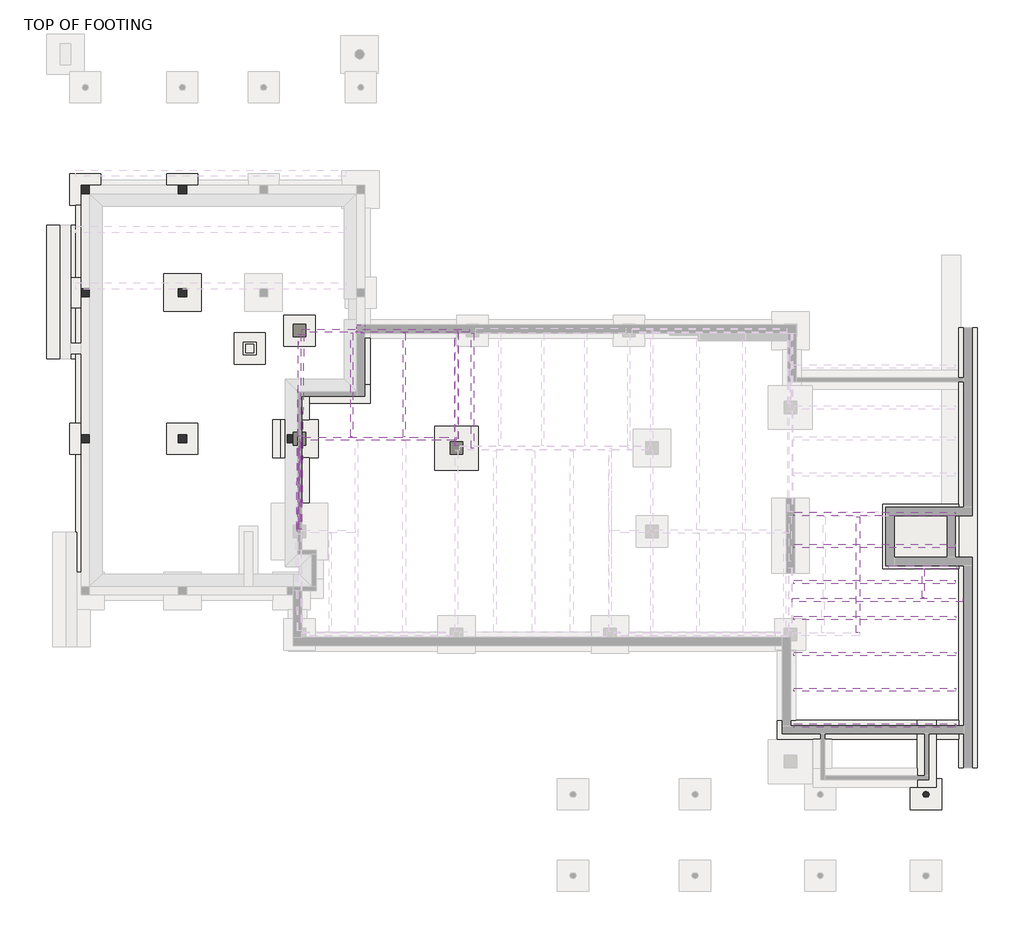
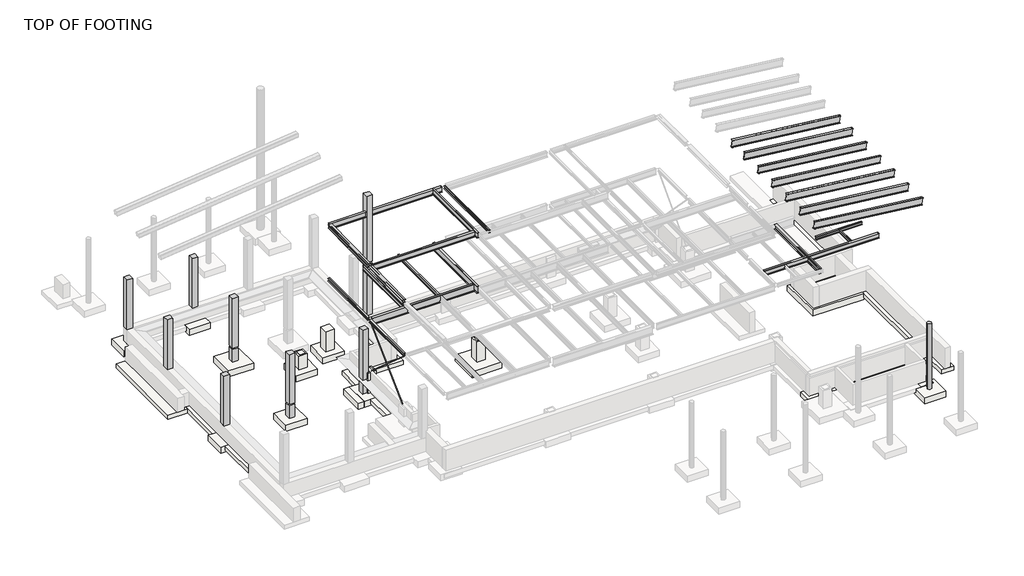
# One storey, part 3 of 4: 23 beams, 13 slabs, 9 columns, 8 footings, 2 members.
"""IFC4 building model written with IfcOpenShell, lengths in millimetres."""

from ifc_helpers import new_model, si_unit, point, frame, frame_2d, origin, place, context, project, spatial, polyline, circle_curve, trimmed, segment, composite_curve, outline, extrude, faceted_brep, transform, mapped, element, save
from components import w_wide_flange_w10x12_2b4455fd, w_wide_flange_w10x49_85831f45, w_wide_flange_w10x49_791f69d4, w_wide_flange_w12x14_94fda763, w_wide_flange_w14x30_e86b3798, w_wide_flange_w14x30_a3fd6266, w_wide_flange_w16x26_a9c838cc, w_wide_flange_w16x26_811e96eb, w_wide_flange_w16x26_3658d20b, w_wide_flange_w21x44_175405ae, w_wide_flange_w21x44_417b1038, w_wide_flange_w21x44_42aa095b, w_wide_flange_w21x44_dd8e647a, w_wide_flange_w21x44_bf9ef094, w_wide_flange_w21x44_aedf4de2, w_wide_flange_w21x44_8a3b57d7, w_wide_flange_w21x44_bc81a974, w_wide_flange_w21x44_aeefe74e, w_wide_flange_w8x10_6a41b71d, w_wide_flange_w8x10_f6404ef0, w_wide_flange_w8x18_62c2d6be, w_wide_flange_w8x18_57e2a91b, slab_df1ede25, slab_6d6a3403, footing_rectangular_with_pier_073162b1, footing_rectangular_with_pier_64681127, footing_rectangular_with_pier_b4053baf

model = new_model("IFC4")

# Units and contexts
model_context = context("Model", 3, world=origin())
ifc_project = project(units=[si_unit("LENGTHUNIT", "METRE", prefix="MILLI")], contexts=[model_context])

# Site, building, storey
site = spatial("IfcSite", under=ifc_project)
building = spatial("IfcBuilding", under=site)
storey = spatial("IfcBuildingStorey", under=building, Name="TOP OF FOOTING", Elevation=28905.2)

# Beams
placement = place(None, origin())
w_wide_flange_w10x12_shape = w_wide_flange_w10x12_2b4455fd(model_context)
element("IfcBeam", 1, ObjectType="W-Wide Flange : W10X12", at=placement, inside=storey, context=model_context, shape_type="MappedRepresentation", body=[
    mapped(w_wide_flange_w10x12_shape, transform((-5235.678794, 5212.7570005, 34253.551), x_axis=(0.0, -1.0, 0.0), y_axis=(1.0, 0.0, 0.0), z_axis=(0.0, 0.0, 1.0))),
])
w_wide_flange_w10x49_shape = w_wide_flange_w10x49_85831f45(model_context)
element("IfcBeam", 2, ObjectType="W-Wide Flange : W10X49", at=placement, inside=storey, context=model_context, shape_type="MappedRepresentation", body=[
    mapped(w_wide_flange_w10x49_shape, transform((-10329.1914876, 323.1484491, 38341.3), x_axis=(0.010666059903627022, 0.9999431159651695, 0.0), y_axis=(-0.9999431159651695, 0.010666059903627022, 0.0), z_axis=(0.0, 0.0, 1.0))),
])
w_wide_flange_w10x49_2_shape = w_wide_flange_w10x49_791f69d4(model_context)
element("IfcBeam", 3, ObjectType="W-Wide Flange : W10X49", at=placement, inside=storey, context=model_context, shape_type="MappedRepresentation", body=[
    mapped(w_wide_flange_w10x49_2_shape, transform((-10277.0536, 5211.0754143, 38341.3), x_axis=(0.010666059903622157, 0.9999431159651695, 0.0), y_axis=(-0.9999431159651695, 0.010666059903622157, 0.0), z_axis=(0.0, 0.0, 1.0))),
])
w_wide_flange_w12x14_shape = w_wide_flange_w12x14_94fda763(model_context)
element("IfcBeam", 4, ObjectType="W-Wide Flange : W12X14", at=placement, inside=storey, context=model_context, shape_type="MappedRepresentation", body=[
    mapped(w_wide_flange_w12x14_shape, transform((-7781.4996274, 5212.7570005, 34227.77), x_axis=(0.0, -1.0, 0.0), y_axis=(1.0, 0.0, 0.0), z_axis=(0.0, 0.0, 1.0))),
])
w_wide_flange_w14x30_shape = w_wide_flange_w14x30_e86b3798(model_context)
element("IfcBeam", 5, ObjectType="W-Wide Flange : W14X30", at=placement, inside=storey, context=model_context, shape_type="MappedRepresentation", body=[
    mapped(w_wide_flange_w14x30_shape, transform((16860.2045393, -4013.7929995, 34203.1339844), x_axis=(0.0, -1.0, 0.0), y_axis=(1.0, 0.0, 0.0), z_axis=(0.0, 0.0, 1.0))),
])
w_wide_flange_w14x30_2_shape = w_wide_flange_w14x30_a3fd6266(model_context)
element("IfcBeam", 6, ObjectType="W-Wide Flange : W14X30", at=placement, inside=storey, context=model_context, shape_type="MappedRepresentation", body=[
    mapped(w_wide_flange_w14x30_2_shape, transform((17765.6930355, -5266.3304995, 34203.1339844), x_axis=(1.0, 0.0, 0.0), y_axis=(0.0, 1.0, 0.0), z_axis=(0.0, 0.0, 1.0))),
])
w_wide_flange_w16x26_shape = w_wide_flange_w16x26_a9c838cc(model_context)
element("IfcBeam", 7, ObjectType="W-Wide Flange : W16X26", at=placement, inside=storey, context=model_context, shape_type="MappedRepresentation", body=[
    mapped(w_wide_flange_w16x26_shape, transform((-6508.5892107, 2582.2695005, 38205.41), x_axis=(1.0, 0.0, 0.0), y_axis=(0.0, 1.0, 0.0), z_axis=(0.0, 0.0, 1.0))),
])
w_wide_flange_w16x26_2_shape = w_wide_flange_w16x26_811e96eb(model_context)
element("IfcBeam", 8, ObjectType="W-Wide Flange : W16X26", at=placement, inside=storey, context=model_context, shape_type="MappedRepresentation", body=[
    mapped(w_wide_flange_w16x26_2_shape, transform((-2689.8579607, 4984.1570005, 38268.91), x_axis=(0.0, 1.0, 0.0), y_axis=(-1.0, 0.0, 0.0), z_axis=(0.0, 0.0, 1.0))),
])
w_wide_flange_w16x26_3_shape = w_wide_flange_w16x26_3658d20b(model_context)
element("IfcBeam", 9, ObjectType="W-Wide Flange : W16X26", at=placement, inside=storey, context=model_context, shape_type="MappedRepresentation", body=[
    mapped(w_wide_flange_w16x26_3_shape, transform((-6107.7454607, 7843.2445005, 38205.41), x_axis=(1.0, 0.0, 0.0), y_axis=(0.0, 1.0, 0.0), z_axis=(0.0, 0.0, 1.0))),
])
w_wide_flange_w21x44_shape = w_wide_flange_w21x44_175405ae(model_context)
element("IfcBeam", 10, ObjectType="W-Wide Flange : W21X44", at=placement, inside=storey, context=model_context, shape_type="MappedRepresentation", body=[
    mapped(w_wide_flange_w21x44_shape, transform((-2689.8579607, 4984.1570005, 34116.01), x_axis=(0.0, -1.0, 0.0), y_axis=(1.0, 0.0, 0.0), z_axis=(0.0, 0.0, 1.0))),
])
w_wide_flange_w21x44_2_shape = w_wide_flange_w21x44_417b1038(model_context)
element("IfcBeam", 11, ObjectType="W-Wide Flange : W21X44", at=placement, inside=storey, context=model_context, shape_type="MappedRepresentation", body=[
    mapped(w_wide_flange_w21x44_2_shape, transform((-6508.5892107, 2582.2695005, 34116.01), x_axis=(1.0, 0.0, 0.0), y_axis=(0.0, 1.0, 0.0), z_axis=(0.0, 0.0, 1.0))),
])
w_wide_flange_w21x44_3_shape = w_wide_flange_w21x44_42aa095b(model_context)
element("IfcBeam", 12, ObjectType="W-Wide Flange : W21X44", at=placement, inside=storey, context=model_context, shape_type="MappedRepresentation", body=[
    mapped(w_wide_flange_w21x44_3_shape, transform((17638.6179777, -2648.5678042, 41130.9707091), x_axis=(0.993803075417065, 0.0, -0.1111550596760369), y_axis=(0.0, 1.0000000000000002, 0.0), z_axis=(0.1111550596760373, 0.0, 0.9938030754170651))),
])
w_wide_flange_w21x44_4_shape = w_wide_flange_w21x44_dd8e647a(model_context)
element("IfcBeam", 13, ObjectType="W-Wide Flange : W21X44", at=placement, inside=storey, context=model_context, shape_type="MappedRepresentation", body=[
    mapped(w_wide_flange_w21x44_4_shape, transform((17638.6280266, -1084.8554995, 41130.9695852), x_axis=(0.993803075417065, 0.0, -0.1111550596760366), y_axis=(0.0, 1.0, 0.0), z_axis=(0.11115505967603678, 0.0, 0.9938030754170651))),
])
w_wide_flange_w21x44_5_shape = w_wide_flange_w21x44_bf9ef094(model_context)
element("IfcBeam", 14, ObjectType="W-Wide Flange : W21X44", at=placement, inside=storey, context=model_context, shape_type="MappedRepresentation", body=[
    mapped(w_wide_flange_w21x44_5_shape, transform((17644.6506444, -11391.7447247, 41130.2959664), x_axis=(0.9938030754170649, 0.0, -0.11115505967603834), y_axis=(0.0, 1.0000000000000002, 0.0), z_axis=(0.11115505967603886, 0.0, 0.9938030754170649))),
])
w_wide_flange_w21x44_6_shape = w_wide_flange_w21x44_aedf4de2(model_context)
element("IfcBeam", 15, ObjectType="W-Wide Flange : W21X44", at=placement, inside=storey, context=model_context, shape_type="MappedRepresentation", body=[
    mapped(w_wide_flange_w21x44_6_shape, transform((17643.3647414, -9643.1093406, 41130.4397923), x_axis=(0.9938030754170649, 0.0, -0.11115505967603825), y_axis=(0.0, 1.0, 0.0), z_axis=(0.11115505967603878, 0.0, 0.9938030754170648))),
])
w_wide_flange_w21x44_7_shape = w_wide_flange_w21x44_8a3b57d7(model_context)
element("IfcBeam", 16, ObjectType="W-Wide Flange : W21X44", at=placement, inside=storey, context=model_context, shape_type="MappedRepresentation", body=[
    mapped(w_wide_flange_w21x44_7_shape, transform((17642.0788384, -7894.4739565, 41130.5836182), x_axis=(0.9938030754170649, 0.0, -0.11115505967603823), y_axis=(0.0, 1.0, 0.0), z_axis=(0.11115505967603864, 0.0, 0.9938030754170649))),
])
w_wide_flange_w21x44_8_shape = w_wide_flange_w21x44_bc81a974(model_context)
element("IfcBeam", 17, ObjectType="W-Wide Flange : W21X44", at=placement, inside=storey, context=model_context, shape_type="MappedRepresentation", body=[
    mapped(w_wide_flange_w21x44_8_shape, transform((17640.7929353, -6145.8385724, 41130.7274441), x_axis=(0.9938030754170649, 0.0, -0.1111550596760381), y_axis=(0.0, 1.0, 0.0), z_axis=(0.1111550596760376, 0.0, 0.993803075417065))),
])
w_wide_flange_w21x44_9_shape = w_wide_flange_w21x44_aeefe74e(model_context)
element("IfcBeam", 18, ObjectType="W-Wide Flange : W21X44", at=placement, inside=storey, context=model_context, shape_type="MappedRepresentation", body=[
    mapped(w_wide_flange_w21x44_9_shape, transform((17639.5070323, -4397.2031883, 41130.87127), x_axis=(0.993803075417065, 0.0, -0.11115505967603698), y_axis=(0.0, 1.0, 0.0), z_axis=(0.11115505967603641, 0.0, 0.993803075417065))),
])
w_wide_flange_w8x10_shape = w_wide_flange_w8x10_6a41b71d(model_context)
element("IfcBeam", 19, ObjectType="W-Wide Flange : W8X10", at=placement, inside=storey, context=model_context, shape_type="MappedRepresentation", body=[
    mapped(w_wide_flange_w8x10_shape, transform((-1910.3954607, 4984.1570005, 38368.097), x_axis=(0.0, -1.0, 0.0), y_axis=(1.0, 0.0, 0.0), z_axis=(0.0, 0.0, 1.0))),
])
w_wide_flange_w8x10_2_shape = w_wide_flange_w8x10_f6404ef0(model_context)
element("IfcBeam", 20, ObjectType="W-Wide Flange : W8X10", at=placement, inside=storey, context=model_context, shape_type="MappedRepresentation", body=[
    mapped(w_wide_flange_w8x10_2_shape, transform((20035.2045393, -4470.9929995, 34278.697), x_axis=(0.0, 1.0, 0.0), y_axis=(-1.0, 0.0, 0.0), z_axis=(0.0, 0.0, 1.0))),
])
element("IfcBeam", 21, ObjectType="W-Wide Flange : W8X18", at=placement, inside=storey, context=model_context, shape_type="SweptSolid", body=[
    extrude(outline(composite_curve([segment(polyline([(34180.526, -10260.6454607), (34180.526, -10312.1439607)]), True, "CONTINUOUS"), segment(trimmed(circle_curve(frame_2d((34192.7815, -10312.1439607)), 12.2555), [point((34180.526, -10312.1439607))], [point((34192.7815, -10324.3994607))], True, "CARTESIAN"), True, "CONTINUOUS"), segment(polyline([(34192.7815, -10324.3994607), (34358.2625, -10324.3994607)]), True, "CONTINUOUS"), segment(trimmed(circle_curve(frame_2d((34358.2625, -10312.1439607)), 12.2555), [point((34358.2625, -10324.3994607))], [point((34370.518, -10312.1439607))], True, "CARTESIAN"), True, "CONTINUOUS"), segment(polyline([(34370.518, -10312.1439607), (34370.518, -10260.6454607), (34378.9, -10260.6454607), (34378.9, -10393.9954607), (34370.518, -10393.9954607), (34370.518, -10342.4969607)]), True, "CONTINUOUS"), segment(trimmed(circle_curve(frame_2d((34358.2625, -10342.4969607)), 12.2555), [point((34370.518, -10342.4969607))], [point((34358.2625, -10330.2414607))], True, "CARTESIAN"), True, "CONTINUOUS"), segment(polyline([(34358.2625, -10330.2414607), (34192.7815, -10330.2414607)]), True, "CONTINUOUS"), segment(trimmed(circle_curve(frame_2d((34192.7815, -10342.4969607)), 12.2555), [point((34192.7815, -10330.2414607))], [point((34180.526, -10342.4969607))], True, "CARTESIAN"), True, "CONTINUOUS"), segment(polyline([(34180.526, -10342.4969607), (34180.526, -10393.9954607), (34172.144, -10393.9954607), (34172.144, -10260.6454607), (34180.526, -10260.6454607)]), True, "CONTINUOUS")], self_intersect=False)), frame((0.0, -1820.3779639, 0.0), z_axis=(0.0, 1.0, 0.0), x_axis=(0.0, 0.0, 1.0)), (0.0, 0.0, 1.0), 4288.297855),
])
w_wide_flange_w8x18_shape = w_wide_flange_w8x18_62c2d6be(model_context)
element("IfcBeam", 22, ObjectType="W-Wide Flange : W8X18", at=placement, inside=storey, context=model_context, shape_type="MappedRepresentation", body=[
    mapped(w_wide_flange_w8x18_shape, transform((-10327.3204607, 5211.4620266, 34275.522), x_axis=(0.0, -1.0, 0.0), y_axis=(1.0, 0.0, 0.0), z_axis=(0.0, 0.0, 1.0))),
])
w_wide_flange_w8x18_2_shape = w_wide_flange_w8x18_57e2a91b(model_context)
element("IfcBeam", 23, ObjectType="W-Wide Flange : W8X18", at=placement, inside=storey, context=model_context, shape_type="MappedRepresentation", body=[
    mapped(w_wide_flange_w8x18_2_shape, transform((20017.7420393, -3675.6554995, 34275.522), x_axis=(1.0, 0.0, 0.0), y_axis=(0.0, 1.0, 0.0), z_axis=(0.0, 0.0, 1.0))),
])

# Columns
element("IfcColumn", 24, ObjectType="Concrete-Rectangular-Column : 16 x 16", at=placement, inside=storey, context=model_context, shape_type="Brep", body=[
    faceted_brep([(-20560.3454607, 14926.6695005, 33782.0), (-20560.3454607, 14520.2695005, 33782.0), (-20560.3454607, 14520.2695005, 29972.0), (-20560.3454607, 14926.6695005, 29972.0), (-20966.7454607, 14520.2695005, 33782.0), (-20966.7454607, 14520.2695005, 29972.0), (-20966.7454607, 14926.6695005, 33782.0), (-20966.7454607, 14926.6695005, 29972.0), (-20661.9454607, 14926.6695005, 33782.0)], [[[0, 1, 2, 3]], [[1, 4, 5, 2]], [[4, 6, 7, 5]], [[6, 8, 0, 3, 7]], [[1, 0, 8, 6, 4]], [[3, 2, 5, 7]]]),
])
element("IfcColumn", 25, ObjectType="Concrete-Rectangular-Column : 16 x 16", at=placement, inside=storey, context=model_context, shape_type="SweptSolid", body=[
    extrude(outline(polyline([(-15835.9454607, 14926.6695005), (-15835.9454607, 14520.2695005), (-16242.3454607, 14520.2695005), (-16242.3454607, 14926.6695005), (-15835.9454607, 14926.6695005)])), frame((0.0, 0.0, 29972.0), z_axis=(0.0, 0.0, 1.0), x_axis=(1.0, 0.0, 0.0)), (0.0, 0.0, 1.0), 3810.0),
])
element("IfcColumn", 26, ObjectType="Concrete-Rectangular-Column : 16 x 16", at=placement, inside=storey, context=model_context, shape_type="Brep", body=[
    faceted_brep([(-20560.3454607, 9897.4695005, 33782.0), (-20560.3454607, 9491.0695005, 33782.0), (-20560.3454607, 9491.0695005, 29972.0), (-20560.3454607, 9897.4695005, 29972.0), (-20661.9454607, 9491.0695005, 33782.0), (-20966.7454607, 9491.0695005, 33782.0), (-20966.7454607, 9491.0695005, 29972.0), (-20966.7454607, 9897.4695005, 33782.0), (-20966.7454607, 9897.4695005, 29972.0)], [[[0, 1, 2, 3]], [[1, 4, 5, 6, 2]], [[5, 7, 8, 6]], [[7, 0, 3, 8]], [[1, 0, 7, 5, 4]], [[3, 2, 6, 8]]]),
])
element("IfcColumn", 27, ObjectType="Concrete-Rectangular-Column : 16 x 16", at=placement, inside=storey, context=model_context, shape_type="Brep", body=[
    faceted_brep([(-15835.9454607, 9897.4695005, 28905.2), (-15835.9454607, 9491.0695005, 28905.2), (-16242.3454607, 9491.0695005, 28905.2), (-16242.3454607, 9897.4695005, 28905.2), (-15835.9454607, 9491.0695005, 29870.4), (-15835.9454607, 9897.4695005, 29870.4), (-16242.3454607, 9897.4695005, 29870.4), (-16242.3454607, 9491.0695005, 29870.4)], [[[0, 1, 2, 3]], [[4, 5, 6, 7]], [[1, 0, 5, 4]], [[2, 1, 4, 7]], [[3, 2, 7, 6]], [[0, 3, 6, 5]]]),
    faceted_brep([(-15835.9454607, 9897.4695005, 33782.0), (-15835.9454607, 9491.0695005, 33782.0), (-15835.9454607, 9491.0695005, 29972.0), (-15835.9454607, 9897.4695005, 29972.0), (-15886.7454607, 9491.0695005, 33782.0), (-16191.5454607, 9491.0695005, 33782.0), (-16242.3454607, 9491.0695005, 33782.0), (-16242.3454607, 9491.0695005, 29972.0), (-16242.3454607, 9897.4695005, 33782.0), (-16242.3454607, 9897.4695005, 29972.0)], [[[0, 1, 2, 3]], [[1, 4, 5, 6, 7, 2]], [[6, 8, 9, 7]], [[8, 0, 3, 9]], [[1, 0, 8, 6, 5, 4]], [[3, 2, 7, 9]]]),
])
element("IfcColumn", 28, ObjectType="Concrete-Rectangular-Column : 16 x 16", at=placement, inside=storey, context=model_context, shape_type="SweptSolid", body=[
    extrude(outline(polyline([(-20560.3454607, 2785.4695005), (-20560.3454607, 2379.0695005), (-20966.7454607, 2379.0695005), (-20966.7454607, 2785.4695005), (-20560.3454607, 2785.4695005)])), frame((0.0, 0.0, 29972.0), z_axis=(0.0, 0.0, 1.0), x_axis=(1.0, 0.0, 0.0)), (0.0, 0.0, 1.0), 3810.0),
])
element("IfcColumn", 29, ObjectType="Concrete-Rectangular-Column : 16 x 16", at=placement, inside=storey, context=model_context, shape_type="SweptSolid", body=[
    extrude(outline(polyline([(-10529.7763201, 2785.4695005), (-10529.7763201, 2379.0695005), (-10936.1763201, 2379.0695005), (-10936.1763201, 2785.4695005), (-10529.7763201, 2785.4695005)])), frame((0.0, 0.0, 28905.2), z_axis=(0.0, 0.0, 1.0), x_axis=(1.0, 0.0, 0.0)), (0.0, 0.0, 1.0), 965.2),
    extrude(outline(polyline([(-10529.7763201, 2785.4695005), (-10529.7763201, 2379.0695005), (-10936.1763201, 2379.0695005), (-10936.1763201, 2785.4695005), (-10529.7763201, 2785.4695005)])), frame((0.0, 0.0, 29972.0), z_axis=(0.0, 0.0, 1.0), x_axis=(1.0, 0.0, 0.0)), (0.0, 0.0, 1.0), 3810.0),
])
element("IfcColumn", 30, ObjectType="Concrete-Rectangular-Column : 16 x 16", at=placement, inside=storey, context=model_context, shape_type="SweptSolid", body=[
    extrude(outline(polyline([(-15835.9454607, 2785.4695005), (-15835.9454607, 2379.0695005), (-16242.3454607, 2379.0695005), (-16242.3454607, 2785.4695005), (-15835.9454607, 2785.4695005)])), frame((0.0, 0.0, 28905.2), z_axis=(0.0, 0.0, 1.0), x_axis=(1.0, 0.0, 0.0)), (0.0, 0.0, 1.0), 965.2),
    extrude(outline(polyline([(-15835.9454607, 2785.4695005), (-15835.9454607, 2379.0695005), (-16242.3454607, 2379.0695005), (-16242.3454607, 2785.4695005), (-15835.9454607, 2785.4695005)])), frame((0.0, 0.0, 29972.0), z_axis=(0.0, 0.0, 1.0), x_axis=(1.0, 0.0, 0.0)), (0.0, 0.0, 1.0), 3810.0),
])
element("IfcColumn", 31, ObjectType="Concrete-Rectangular-Column : 16 x 16", at=placement, inside=storey, context=model_context, shape_type="Brep", body=[
    faceted_brep([(-7149.1454607, 8132.1695005, 39622.9085937), (-7149.1454607, 7725.7695005, 39622.9085937), (-7149.1454607, 7725.7695005, 38595.3), (-7149.1454607, 7725.7695005, 38442.9), (-7149.1454607, 7725.7695005, 34544.0), (-7149.1454607, 7944.8445005, 34544.0), (-7149.1454607, 7944.8445005, 34378.9), (-7149.1454607, 7725.7695005, 34378.9), (-7149.1454607, 7725.7695005, 30480.0), (-7149.1454607, 8132.1695005, 30480.0), (-7149.1454607, 8132.1695005, 33782.0), (-7149.1454607, 8132.1695005, 34036.0), (-7149.1454607, 8132.1695005, 34239.2), (-7555.5454607, 7725.7695005, 39622.9085937), (-7555.5454607, 7725.7695005, 38595.3), (-7555.5454607, 7725.7695005, 38442.9), (-7555.5454607, 7725.7695005, 34544.0), (-7555.5454607, 8132.1695005, 39622.9085937), (-7555.5454607, 8132.1695005, 34239.2), (-7555.5454607, 8132.1695005, 34036.0), (-7555.5454607, 8132.1695005, 30480.0), (-7555.5454607, 7725.7695005, 30480.0), (-7555.5454607, 7725.7695005, 34378.9), (-7555.5454607, 7944.8445005, 34378.9), (-7555.5454607, 7944.8445005, 34544.0)], [[[0, 1, 2, 3, 4, 5, 6, 7, 8, 9, 10, 11, 12]], [[1, 13, 14, 15, 16, 4, 3, 2]], [[13, 17, 18, 19, 20, 21, 22, 23, 24, 16, 15, 14]], [[17, 0, 12, 11, 10, 9, 20, 19, 18]], [[1, 0, 17, 13]], [[9, 8, 21, 20]], [[6, 23, 22, 7]], [[24, 5, 4, 16]], [[23, 6, 5, 24]], [[21, 8, 7, 22]]]),
])
element("IfcColumn", 32, ObjectType="Concrete-Round-Column1 : 12\"", at=placement, inside=storey, context=model_context, shape_type="SweptSolid", body=[
    extrude(outline(composite_curve([segment(trimmed(circle_curve(frame_2d((20168.0462086, -14731.7497924)), 152.4), [point((20015.6462086, -14731.7497924))], [point((20320.4462086, -14731.7497924))], False, "CARTESIAN"), True, "CONTINUOUS"), segment(trimmed(circle_curve(frame_2d((20168.0462086, -14731.7497924)), 152.4), [point((20320.4462086, -14731.7497924))], [point((20015.6462086, -14731.7497924))], False, "CARTESIAN"), True, "CONTINUOUS")], self_intersect=False)), frame((0.0, 0.0, 28854.4), z_axis=(0.0, 0.0, 1.0), x_axis=(1.0, 0.0, 0.0)), (0.0, 0.0, 1.0), 5003.8),
])

# Footings
element("IfcFooting", 33, ObjectType="Bearing Footing - 36\" x 12\"", at=placement, inside=storey, context=model_context, shape_type="Brep", body=[
    faceted_brep([(21765.578935, 7995.5948911, 28905.2), (21859.9861799, 7995.5948911, 28905.2), (22679.978935, 7995.5948911, 28905.2), (22679.978935, 7995.5948911, 28600.4), (21859.9861799, 7995.5948911, 28600.4), (21765.578935, 7995.5948911, 28600.4), (22679.978935, -13445.1304995, 28905.2), (21765.578935, -13445.1304995, 28905.2), (21765.578935, -13445.1304995, 28600.4), (22679.978935, -13445.1304995, 28600.4), (21765.578935, 5909.6695005, 28905.2), (21765.578935, 4995.2695005, 28905.2), (21765.578935, -3450.2304995, 28905.2), (21765.578935, -11127.3804995, 28905.2), (21765.578935, -12041.7804995, 28905.2), (21765.578935, -12041.7804995, 28600.4), (21765.578935, -11127.3804995, 28600.4), (21765.578935, -3450.2304995, 28600.4), (21765.578935, 4995.2695005, 28600.4), (21765.578935, 5909.6695005, 28600.4)], [[[0, 1, 2, 3, 4, 5]], [[6, 7, 8, 9]], [[0, 10, 11, 12, 13, 14, 7, 6, 2, 1]], [[3, 2, 6, 9]], [[5, 4, 3, 9, 8, 15, 16, 17, 18, 19]], [[0, 5, 19, 18, 17, 16, 15, 8, 7, 14, 13, 12, 11, 10]]]),
])
element("IfcFooting", 34, ObjectType="Bearing Footing - 36\" x 12\"", at=placement, inside=storey, context=model_context, shape_type="Brep", body=[
    faceted_brep([(19749.4545393, -11127.3804995, 28905.2), (19749.4545393, -12041.7804995, 28905.2), (19749.4545393, -13470.5304995, 28905.2), (19749.4545393, -14384.9304995, 28905.2), (20663.8545393, -14384.9304995, 28905.2), (20663.8545393, -12041.7804995, 28905.2), (20663.8545393, -11127.3804995, 28905.2), (19749.4545393, -11127.3804995, 28600.4), (19749.4545393, -12041.7804995, 28600.4), (19749.4545393, -13470.5304995, 28600.4), (19749.4545393, -13969.7497924, 28600.4), (19749.4545393, -13969.7497924, 28854.4), (19749.4545393, -14384.9304995, 28854.4), (20663.8545393, -11127.3804995, 28600.4), (20663.8545393, -12041.7804995, 28600.4), (20663.8545393, -13969.7497924, 28600.4), (20663.8545393, -14384.9304995, 28854.4), (20663.8545393, -13969.7497924, 28854.4)], [[[0, 1, 2, 3, 4, 5, 6]], [[3, 2, 1, 0, 7, 8, 9, 10, 11, 12]], [[7, 13, 14, 15, 10, 9, 8]], [[6, 5, 4, 16, 17, 15, 14, 13]], [[0, 6, 13, 7]], [[4, 3, 12, 16]], [[11, 17, 16, 12]], [[17, 11, 10, 15]]]),
])
element("IfcFooting", 35, ObjectType="Bearing Footing - 36\" x 12\"", at=placement, inside=storey, context=model_context, shape_type="Brep", body=[
    faceted_brep([(19749.4545393, -12041.7804995, 28905.2), (19749.4545393, -11127.3804995, 28905.2), (13837.6045393, -11127.3804995, 28905.2), (12923.2045393, -11127.3804995, 28905.2), (12923.2045393, -12041.7804995, 28905.2), (14682.1545393, -12041.7804995, 28905.2), (15596.5545393, -12041.7804995, 28905.2), (19749.4545393, -12041.7804995, 28600.4), (12923.2045393, -12041.7804995, 28600.4), (14682.1545393, -12041.7804995, 28600.4), (15596.5545393, -12041.7804995, 28600.4), (19749.4545393, -11127.3804995, 28600.4), (12923.2045393, -11127.3804995, 28600.4), (13837.6045393, -11127.3804995, 28600.4)], [[[0, 1, 2, 3, 4, 5, 6]], [[7, 0, 6, 5, 4, 8, 9, 10]], [[11, 7, 10, 9, 8, 12, 13]], [[1, 11, 13, 12, 3, 2]], [[1, 0, 7, 11]], [[4, 3, 12, 8]]]),
    faceted_brep([(20663.8545393, -11127.3804995, 28905.2), (20663.8545393, -12041.7804995, 28905.2), (21765.578935, -12041.7804995, 28905.2), (21765.578935, -11127.3804995, 28905.2), (20663.8545393, -12041.7804995, 28600.4), (21765.578935, -12041.7804995, 28600.4), (20663.8545393, -11127.3804995, 28600.4), (21765.578935, -11127.3804995, 28600.4)], [[[0, 1, 2, 3]], [[1, 4, 5, 2]], [[4, 6, 7, 5]], [[6, 0, 3, 7]], [[1, 0, 6, 4]], [[3, 2, 5, 7]]]),
])
element("IfcFooting", 36, ObjectType="Bearing Footing - 36\" x 12\"", at=placement, inside=storey, context=model_context, shape_type="Brep", body=[
    faceted_brep([(-10784.5204607, -564.1554995, 28905.2), (-9870.1204607, -564.1554995, 28905.2), (-9870.1204607, 1667.8695005, 28905.2), (-10784.5204607, 1667.8695005, 28905.2), (-10784.5204607, -3396.2554995, 28905.2), (-10082.8454607, -3396.2554995, 28905.2), (-9870.1204607, -3396.2554995, 28905.2), (-9870.1204607, -3307.3554995, 28905.2), (-10784.5204607, -3307.3554995, 28905.2), (-10784.5204607, -564.1554995, 28625.8), (-10784.5204607, 1667.8695005, 28600.4), (-10784.5204607, -3396.2554995, 28600.4), (-10784.5204607, -3307.3554995, 28625.8), (-9870.1204607, -3396.2554995, 28600.4), (-10082.8454607, -3396.2554995, 28600.4), (-9870.1204607, 1667.8695005, 28600.4), (-9870.1204607, -2481.8554995, 28600.4), (-9870.1204607, -564.1554995, 28625.8), (-9870.1204607, -2481.8554995, 28625.8), (-9870.1204607, -3307.3554995, 28625.8)], [[[0, 1, 2, 3]], [[4, 5, 6, 7, 8]], [[9, 0, 3, 10, 11, 4, 8, 12]], [[13, 14, 11, 10, 15, 16]], [[1, 17, 18, 19, 7, 6, 13, 16, 15, 2]], [[1, 0, 9, 17]], [[3, 2, 15, 10]], [[6, 5, 4, 11, 14, 13]], [[8, 7, 19, 12]], [[17, 9, 12, 19, 18]]]),
    faceted_brep([(-9870.1204607, 5220.6945005, 28905.2), (-10784.5204607, 5220.6945005, 28905.2), (-10784.5204607, 3496.6695005, 28905.2), (-9870.1204607, 3496.6695005, 28905.2), (-9870.1204607, 4306.2945005, 28905.2), (-10784.5204607, 5220.6945005, 28600.4), (-10784.5204607, 3496.6695005, 28600.4), (-9870.1204607, 5220.6945005, 28600.4), (-9870.1204607, 4306.2945005, 28600.4), (-9870.1204607, 3496.6695005, 28600.4)], [[[0, 1, 2, 3, 4]], [[1, 5, 6, 2]], [[5, 7, 8, 9, 6]], [[7, 0, 4, 3, 9, 8]], [[3, 2, 6, 9]], [[1, 0, 7, 5]]]),
])
element("IfcFooting", 37, ObjectType="Bearing Footing - 36\" x 12\"", at=placement, inside=storey, context=model_context, shape_type="Brep", body=[
    faceted_brep([(-21220.7454607, -3907.4304995, 28905.2), (-20306.3454607, -3907.4304995, 28905.2), (-20306.3454607, 1820.2695005, 28905.2), (-21220.7454607, 1820.2695005, 28905.2), (-21220.7454607, -1964.3304995, 28905.2), (-21220.7454607, -3907.4304995, 28600.4), (-21220.7454607, 1820.2695005, 28600.4), (-21220.7454607, -1964.3304995, 28600.4), (-20306.3454607, -3907.4304995, 28600.4), (-20306.3454607, 1820.2695005, 28600.4)], [[[0, 1, 2, 3, 4]], [[5, 0, 4, 3, 6, 7]], [[8, 5, 7, 6, 9]], [[1, 8, 9, 2]], [[1, 0, 5, 8]], [[3, 2, 9, 6]]]),
    faceted_brep([(-21220.7454607, 3344.2695005, 28905.2), (-20306.3454607, 3344.2695005, 28905.2), (-20306.3454607, 8932.2695005, 28905.2), (-21220.7454607, 8932.2695005, 28905.2), (-21220.7454607, 6469.2695005, 28905.2), (-21220.7454607, 3344.2695005, 28600.4), (-21220.7454607, 8932.2695005, 28600.4), (-21220.7454607, 6469.2695005, 28600.4), (-20306.3454607, 3344.2695005, 28600.4), (-20306.3454607, 8932.2695005, 28600.4)], [[[0, 1, 2, 3, 4]], [[5, 0, 4, 3, 6, 7]], [[8, 5, 7, 6, 9]], [[1, 8, 9, 2]], [[1, 0, 5, 8]], [[3, 2, 9, 6]]]),
    faceted_brep([(-21220.7454607, 10456.2695005, 28905.2), (-20306.3454607, 10456.2695005, 28905.2), (-20306.3454607, 13961.4695005, 28905.2), (-21220.7454607, 13961.4695005, 28905.2), (-21220.7454607, 12968.7995005, 28905.2), (-21220.7454607, 10456.2695005, 28600.4), (-21220.7454607, 13961.4695005, 28600.4), (-21220.7454607, 12968.7995005, 28600.4), (-20306.3454607, 10456.2695005, 28600.4), (-20306.3454607, 13961.4695005, 28600.4)], [[[0, 1, 2, 3, 4]], [[5, 0, 4, 3, 6, 7]], [[8, 5, 7, 6, 9]], [[1, 8, 9, 2]], [[1, 0, 5, 8]], [[3, 2, 9, 6]]]),
])
element("IfcFooting", 38, ObjectType="Bearing Footing - 36\" x 12\"", at=placement, inside=storey, context=model_context, shape_type="Brep", body=[
    faceted_brep([(-6895.1454607, 4306.2945005, 28905.2), (-6895.1454607, 5220.6945005, 28905.2), (-7809.5454607, 5220.6945005, 28905.2), (-9870.1204607, 5220.6945005, 28905.2), (-9870.1204607, 4306.2945005, 28905.2), (-6895.1454607, 4306.2945005, 28600.4), (-9870.1204607, 4306.2945005, 28600.4), (-6895.1454607, 5220.6945005, 28600.4), (-9870.1204607, 5220.6945005, 28600.4), (-7809.5454607, 5220.6945005, 28600.4)], [[[0, 1, 2, 3, 4]], [[5, 0, 4, 6]], [[7, 5, 6, 8, 9]], [[1, 7, 9, 8, 3, 2]], [[4, 3, 8, 6]], [[1, 0, 5, 7]]]),
])
element("IfcFooting", 39, ObjectType="Bearing Footing - 36\" x 12\"", at=placement, inside=storey, context=model_context, shape_type="SweptSolid", body=[
    extrude(outline(polyline([(-7809.5454607, 7471.7695005), (-6895.1454607, 7471.7695005), (-6895.1454607, 5220.6945005), (-7809.5454607, 5220.6945005), (-7809.5454607, 7471.7695005)])), frame((0.0, 0.0, 28600.4), z_axis=(0.0, 0.0, 1.0), x_axis=(1.0, 0.0, 0.0)), (0.0, 0.0, 1.0), 304.8),
])
element("IfcFooting", 40, ObjectType="Bearing Footing - 72\" x 12\" 2", at=placement, inside=storey, context=model_context, shape_type="SweptSolid", body=[
    extrude(outline(polyline([(-22651.3734711, 6469.2695005), (-22651.3734711, 12968.7995005), (-21220.7454607, 12968.7995005), (-21220.7454607, 10456.2695005), (-21525.5454607, 10456.2695005), (-21525.5454607, 8932.2695005), (-21220.7454607, 8932.2695005), (-21220.7454607, 6469.2695005), (-22651.3734711, 6469.2695005)])), frame((0.0, 0.0, 28600.4), z_axis=(0.0, 0.0, 1.0), x_axis=(1.0, 0.0, 0.0)), (0.0, 0.0, 1.0), 304.8),
])

# Members
element("IfcMember", 41, ObjectType="Round Bar : RB1", at=placement, inside=storey, context=model_context, shape_type="SweptSolid", body=[
    extrude(outline(composite_curve([segment(trimmed(circle_curve(frame_2d((0.0, -12.7)), 12.7), [point((0.0, -25.4))], [point((0.0, 0.0))], False, "CARTESIAN"), True, "CONTINUOUS"), segment(trimmed(circle_curve(frame_2d((0.0, -12.7)), 12.7), [point((0.0, 0.0))], [point((0.0, -25.4))], False, "CARTESIAN"), True, "CONTINUOUS")], self_intersect=False)), frame((-10314.6204607, 2572.7327799, 30310.5869527), z_axis=(0.0, -0.7509228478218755, 0.6603899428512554), x_axis=(0.0, -0.6603899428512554, -0.7509228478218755)), (0.0, 0.0, 1.0), 5820.248198),
])
element("IfcMember", 42, ObjectType="Round Bar : RB1", at=placement, inside=storey, context=model_context, shape_type="SweptSolid", body=[
    extrude(outline(composite_curve([segment(trimmed(circle_curve(frame_2d((0.0, -12.7)), 12.7), [point((0.0, -25.4))], [point((0.0, 0.0))], False, "CARTESIAN"), True, "CONTINUOUS"), segment(trimmed(circle_curve(frame_2d((0.0, -12.7)), 12.7), [point((0.0, 0.0))], [point((0.0, -25.4))], False, "CARTESIAN"), True, "CONTINUOUS")], self_intersect=False)), frame((-10436.1797347, -1925.003866, 30310.6852673), z_axis=(0.016204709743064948, 0.7438669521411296, 0.6681312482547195), x_axis=(0.014551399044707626, 0.6679727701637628, -0.7440434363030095)), (0.0, 0.0, 1.0), 5752.6483371),
])

# Slabs
element("IfcSlab", 43, ObjectType="8\" Foundation Slab", at=placement, inside=storey, context=model_context, shape_type="Brep", body=[
    faceted_brep([(18067.4486799, -605.4304995, 28448.0), (21758.3861799, -605.4304995, 28448.0), (21758.3861799, -3755.0304995, 28448.0), (18067.4486799, -3755.0304995, 28448.0), (18067.4486799, -605.4304995, 28905.2), (18067.4486799, -3755.0304995, 28905.2), (21758.3861799, -3755.0304995, 28905.2), (21758.3861799, -3450.2304995, 28905.2), (21758.3861799, -605.4304995, 28905.2), (20945.5861799, -605.4304995, 28905.2), (21758.3861799, -605.4304995, 28600.4)], [[[0, 1, 2, 3]], [[4, 5, 6, 7, 8, 9]], [[1, 0, 4, 9, 8, 10]], [[2, 1, 10, 8, 7, 6]], [[3, 2, 6, 5]], [[0, 3, 5, 4]]]),
])
element("IfcSlab", 44, ObjectType="Footing-Rectangular : 5'-0\" x 5'-0\" x 1'-6\"", at=placement, inside=storey, context=model_context, shape_type="Brep", body=[
    faceted_brep([(-20001.5454607, 3344.2695005, 28905.2), (-20306.3454607, 3344.2695005, 28905.2), (-21220.7454607, 3344.2695005, 28905.2), (-21525.5454607, 3344.2695005, 28905.2), (-21525.5454607, 1820.2695005, 28905.2), (-21220.7454607, 1820.2695005, 28905.2), (-20306.3454607, 1820.2695005, 28905.2), (-20001.5454607, 1820.2695005, 28905.2), (-20001.5454607, 3344.2695005, 28448.0), (-20001.5454607, 1820.2695005, 28448.0), (-21525.5454607, 1820.2695005, 28448.0), (-21525.5454607, 3344.2695005, 28448.0)], [[[0, 1, 2, 3, 4, 5, 6, 7]], [[8, 9, 10, 11]], [[3, 2, 1, 0, 8, 11]], [[4, 3, 11, 10]], [[7, 6, 5, 4, 10, 9]], [[0, 7, 9, 8]]]),
])
element("IfcSlab", 45, ObjectType="Footing-Rectangular : 5'-0\" x 5'-0\" x 1'-6\"", at=placement, inside=storey, context=model_context, shape_type="Brep", body=[
    faceted_brep([(-20001.5454607, 10456.2695005, 28905.2), (-20306.3454607, 10456.2695005, 28905.2), (-21220.7454607, 10456.2695005, 28905.2), (-21525.5454607, 10456.2695005, 28905.2), (-21525.5454607, 8932.2695005, 28905.2), (-21220.7454607, 8932.2695005, 28905.2), (-20306.3454607, 8932.2695005, 28905.2), (-20001.5454607, 8932.2695005, 28905.2), (-20001.5454607, 10456.2695005, 28448.0), (-20001.5454607, 8932.2695005, 28448.0), (-21525.5454607, 8932.2695005, 28448.0), (-21525.5454607, 10456.2695005, 28448.0), (-21525.5454607, 10456.2695005, 28600.4), (-21525.5454607, 8932.2695005, 28600.4)], [[[0, 1, 2, 3, 4, 5, 6, 7]], [[8, 9, 10, 11]], [[3, 2, 1, 0, 8, 11, 12]], [[4, 3, 12, 11, 10, 13]], [[7, 6, 5, 4, 13, 10, 9]], [[0, 7, 9, 8]]]),
])
element("IfcSlab", 46, ObjectType="Footing-Rectangular : 5'-0\" x 5'-0\" x 1'-6\"", at=placement, inside=storey, context=model_context, shape_type="Brep", body=[
    faceted_brep([(-15277.1454607, 15485.4695005, 28905.2), (-16801.1454607, 15485.4695005, 28905.2), (-16801.1454607, 15180.6695005, 28905.2), (-16801.1454607, 14266.2695005, 28905.2), (-16801.1454607, 13961.4695005, 28905.2), (-15277.1454607, 13961.4695005, 28905.2), (-15277.1454607, 14266.2695005, 28905.2), (-15277.1454607, 15180.6695005, 28905.2), (-15277.1454607, 15485.4695005, 28448.0), (-15277.1454607, 13961.4695005, 28448.0), (-16801.1454607, 13961.4695005, 28448.0), (-16801.1454607, 15485.4695005, 28448.0)], [[[0, 1, 2, 3, 4, 5, 6, 7]], [[8, 9, 10, 11]], [[1, 0, 8, 11]], [[4, 3, 2, 1, 11, 10]], [[5, 4, 10, 9]], [[0, 7, 6, 5, 9, 8]]]),
])
element("IfcSlab", 47, ObjectType="Footing-Rectangular : 5'-0\" x 5'-0\" x 1'-6\"", at=placement, inside=storey, context=model_context, shape_type="Brep", body=[
    faceted_brep([(-20001.5454607, 15485.4695005, 28905.2), (-21525.5454607, 15485.4695005, 28905.2), (-21525.5454607, 13961.4695005, 28905.2), (-21220.7454607, 13961.4695005, 28905.2), (-20306.3454607, 13961.4695005, 28905.2), (-20001.5454607, 13961.4695005, 28905.2), (-20001.5454607, 14266.2695005, 28905.2), (-20001.5454607, 15180.6695005, 28905.2), (-20001.5454607, 15485.4695005, 28448.0), (-20001.5454607, 13961.4695005, 28448.0), (-21525.5454607, 13961.4695005, 28448.0), (-21525.5454607, 15485.4695005, 28448.0)], [[[0, 1, 2, 3, 4, 5, 6, 7]], [[8, 9, 10, 11]], [[1, 0, 8, 11]], [[2, 1, 11, 10]], [[5, 4, 3, 2, 10, 9]], [[0, 7, 6, 5, 9, 8]]]),
])
element("IfcSlab", 48, ObjectType="Footing-Rectangular : 5'-0\" x 5'-0\" x 1'-6\"", at=placement, inside=storey, context=model_context, shape_type="Brep", body=[
    faceted_brep([(20930.0462086, -13969.7497924, 28854.4), (20663.8545393, -13969.7497924, 28854.4), (19749.4545393, -13969.7497924, 28854.4), (19406.0462086, -13969.7497924, 28854.4), (19406.0462086, -14384.9304995, 28854.4), (19406.0462086, -15493.7497924, 28854.4), (20930.0462086, -15493.7497924, 28854.4), (20930.0462086, -13969.7497924, 28397.2), (20930.0462086, -15493.7497924, 28397.2), (19406.0462086, -15493.7497924, 28397.2), (19406.0462086, -13969.7497924, 28397.2), (19406.0462086, -13969.7497924, 28600.4)], [[[0, 1, 2, 3, 4, 5, 6]], [[7, 8, 9, 10]], [[3, 2, 1, 0, 7, 10, 11]], [[5, 4, 3, 11, 10, 9]], [[6, 5, 9, 8]], [[0, 6, 8, 7]]]),
])
slab_shape = slab_df1ede25(model_context)
element("IfcSlab", 49, ObjectType="Footing-Rectangular : 5'-0\" x 5'-0\" x 1'-6\"", at=placement, inside=storey, context=model_context, shape_type="MappedRepresentation", body=[
    mapped(slab_shape, transform((-16039.1454607, 2582.2695005, 28905.2), x_axis=(1.0, 0.0, 0.0), y_axis=(0.0, 1.0, 0.0), z_axis=(0.0, 0.0, 1.0))),
])
element("IfcSlab", 50, ObjectType="Footing-Rectangular : 6'-0\" x 6'-0\" x 1'-6\"", at=placement, inside=storey, context=model_context, shape_type="SweptSolid", body=[
    extrude(outline(polyline([(-11647.3763201, 1667.8695005), (-11647.3763201, 3496.6695005), (-11241.7204607, 3496.6695005), (-11241.7204607, 1667.8695005), (-11647.3763201, 1667.8695005)])), frame((0.0, 0.0, 28448.0), z_axis=(0.0, 0.0, 1.0), x_axis=(1.0, 0.0, 0.0)), (0.0, 0.0, 1.0), 457.2),
])
slab_2_shape = slab_6d6a3403(model_context)
element("IfcSlab", 51, ObjectType="Footing-Rectangular : 6'-0\" x 6'-0\" x 1'-6\"", at=placement, inside=storey, context=model_context, shape_type="MappedRepresentation", body=[
    mapped(slab_2_shape, transform((-16039.1454607, 9694.2695005, 28905.2), x_axis=(1.0, 0.0, 0.0), y_axis=(0.0, 1.0, 0.0), z_axis=(0.0, 0.0, 1.0))),
])
element("IfcSlab", 52, ObjectType="Footing-Rectangular_With_Pier : F3 - 6'-0\" x 6'-0\" x 1'-6\"", at=placement, inside=storey, context=model_context, shape_type="SolidModel", body=[
    extrude(outline(polyline([(-10022.5204607, 2887.0695005), (-10022.5204607, 2277.4695005), (-10632.1204607, 2277.4695005), (-10632.1204607, 2887.0695005), (-10022.5204607, 2887.0695005)])), frame((0.0, 0.0, 28905.2), z_axis=(0.0, 0.0, 1.0), x_axis=(1.0, 0.0, 0.0)), (0.0, 0.0, 1.0), 1549.4),
    faceted_brep([(-9412.9204607, 3496.6695005, 28905.2), (-9870.1204607, 3496.6695005, 28905.2), (-10784.5204607, 3496.6695005, 28905.2), (-11241.7204607, 3496.6695005, 28905.2), (-11241.7204607, 1667.8695005, 28905.2), (-10784.5204607, 1667.8695005, 28905.2), (-9870.1204607, 1667.8695005, 28905.2), (-9412.9204607, 1667.8695005, 28905.2), (-9412.9204607, 3496.6695005, 28448.0), (-9412.9204607, 1667.8695005, 28448.0), (-11241.7204607, 1667.8695005, 28448.0), (-11241.7204607, 3496.6695005, 28448.0)], [[[0, 1, 2, 3, 4, 5, 6, 7]], [[8, 9, 10, 11]], [[3, 2, 1, 0, 8, 11]], [[4, 3, 11, 10]], [[7, 6, 5, 4, 10, 9]], [[0, 7, 9, 8]]]),
    extrude(outline(polyline([(-10124.1204607, 2785.4695005), (-10124.1204607, 2379.0695005), (-10530.5204607, 2379.0695005), (-10530.5204607, 2785.4695005), (-10124.1204607, 2785.4695005)])), frame((0.0, 0.0, 30454.6), z_axis=(0.0, 0.0, 1.0), x_axis=(1.0, 0.0, 0.0)), (0.0, 0.0, 1.0), 25.4),
])
footing_rectangular_with_pier_shape = footing_rectangular_with_pier_073162b1(model_context)
element("IfcSlab", 53, ObjectType="Footing-Rectangular_With_Pier : F8 - 5'-0\" x 5'-0\" x 1'-6\" 2", at=placement, inside=storey, context=model_context, shape_type="MappedRepresentation", body=[
    mapped(footing_rectangular_with_pier_shape, transform((-12755.8779607, 6976.4695005, 28905.2), x_axis=(1.0, 0.0, 0.0), y_axis=(0.0, 1.0, 0.0), z_axis=(0.0, 0.0, 1.0))),
])
footing_rectangular_with_pier_2_shape = footing_rectangular_with_pier_64681127(model_context)
element("IfcSlab", 54, ObjectType="Footing-Rectangular_With_Pier : F6 - 7'-0\" x 7'-0\" x 1'-6\"", at=placement, inside=storey, context=model_context, shape_type="MappedRepresentation", body=[
    mapped(footing_rectangular_with_pier_2_shape, transform((-2689.8579607, 2125.0695005, 28905.2), x_axis=(1.0, 0.0, 0.0), y_axis=(0.0, 1.0, 0.0), z_axis=(0.0, 0.0, 1.0))),
])
footing_rectangular_with_pier_3_shape = footing_rectangular_with_pier_b4053baf(model_context)
element("IfcSlab", 55, ObjectType="Footing-Rectangular_With_Pier : F1 - 5'-0\" x 5'-0\" x 1'-6\"", at=placement, inside=storey, context=model_context, shape_type="MappedRepresentation", body=[
    mapped(footing_rectangular_with_pier_3_shape, transform((-10327.3204607, 7843.2445005, 28905.2), x_axis=(1.0, 0.0, 0.0), y_axis=(0.0, 1.0, 0.0), z_axis=(0.0, 0.0, 1.0))),
])

save(model, "model.ifc")
